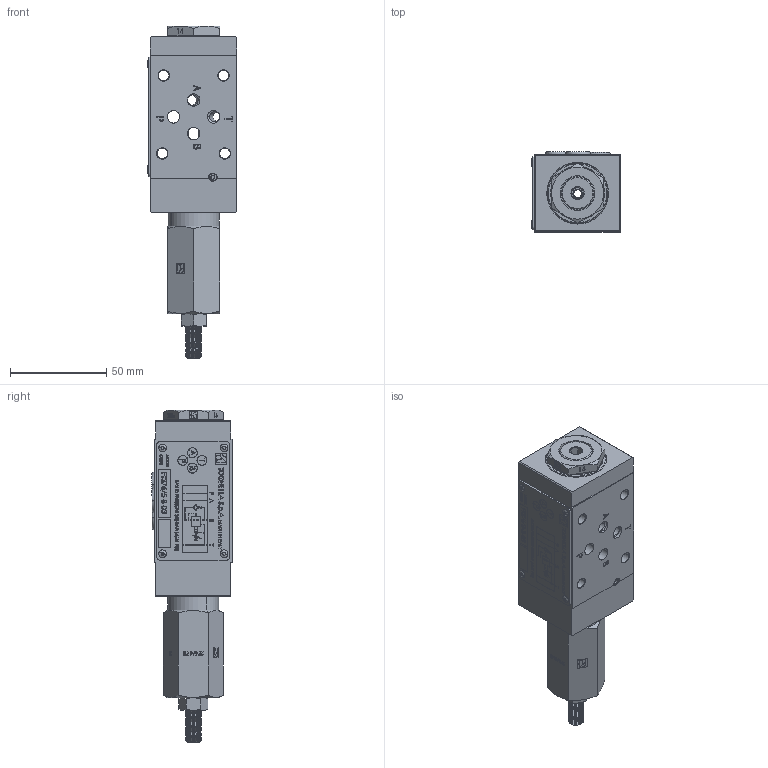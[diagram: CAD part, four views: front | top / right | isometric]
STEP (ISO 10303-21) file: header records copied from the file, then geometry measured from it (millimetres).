
FILE_DESCRIPTION (( 'STEP AP214' ), '1' );
FILE_NAME ('ASSIEME 376-5-B-03.STEP', '2019-12-03T14:33:37', ( '' ), ( '' ), 'SwSTEP 2.0', 'SolidWorks 2018', '' );
FILE_SCHEMA (( 'AUTOMOTIVE_DESIGN' ));
Length unit declared in the file: millimetre
Products named in the file (1): ASSIEME 376-5-B-03
Bounding box: 46.66 x 41.58 x 172.5 mm (x, y, z)
Surface area: 35158.7 mm2 (no closed solid volume)
Topology: 0 solids, 52 shells, 999 faces, 4540 edges, 3439 vertices
Faces by surface type: plane 530, cone 179, bspline 158, cylinder 118, sphere 8, torus 6
Entity records: 73295 total; most frequent: CARTESIAN_POINT 28748, ORIENTED_EDGE 6295, DIRECTION 5809, EDGE_CURVE 4540, VERTEX_POINT 3439, VECTOR 3013, LINE 3013, AXIS2_PLACEMENT_3D 1398
